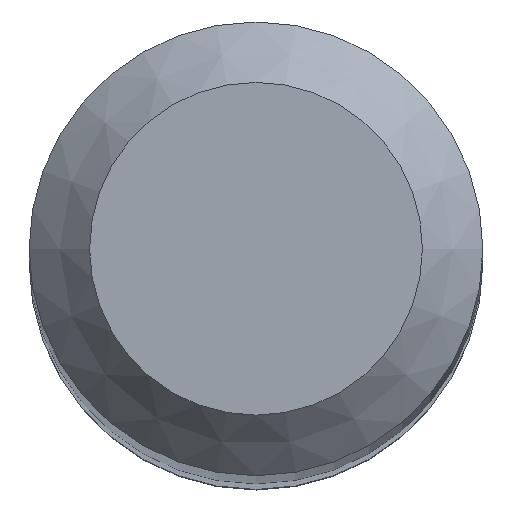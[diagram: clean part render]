
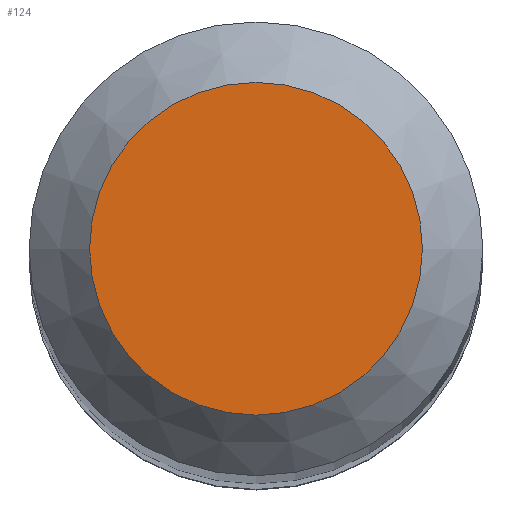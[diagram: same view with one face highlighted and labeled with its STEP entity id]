
A CAD part, top view. The second image highlights one B-rep face of the part: STEP entity #124.
In plain terms, the highlighted planar face has unit normal (0, 0, 1).
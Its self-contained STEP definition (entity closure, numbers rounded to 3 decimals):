
#108=CARTESIAN_POINT('',(2.2,0.0,110.0));
#109=DIRECTION('',(0.0,0.0,1.0));
#110=DIRECTION('',(1.0,0.0,0.0));
#111=AXIS2_PLACEMENT_3D('',#108,#109,#110);
#112=PLANE('',#111);
#113=CARTESIAN_POINT('',(-2.2,0.0,110.0));
#114=VERTEX_POINT('',#113);
#115=CARTESIAN_POINT('',(0.0,0.0,110.0));
#116=DIRECTION('',(0.0,0.0,-1.0));
#117=DIRECTION('',(-1.0,0.0,0.0));
#118=AXIS2_PLACEMENT_3D('',#115,#116,#117);
#119=CIRCLE('',#118,2.2);
#120=EDGE_CURVE('',#114,#114,#119,.T.);
#121=ORIENTED_EDGE('',*,*,#120,.F.);
#122=EDGE_LOOP('',(#121));
#123=FACE_OUTER_BOUND('',#122,.T.);
#124=ADVANCED_FACE('',(#123),#112,.T.);
